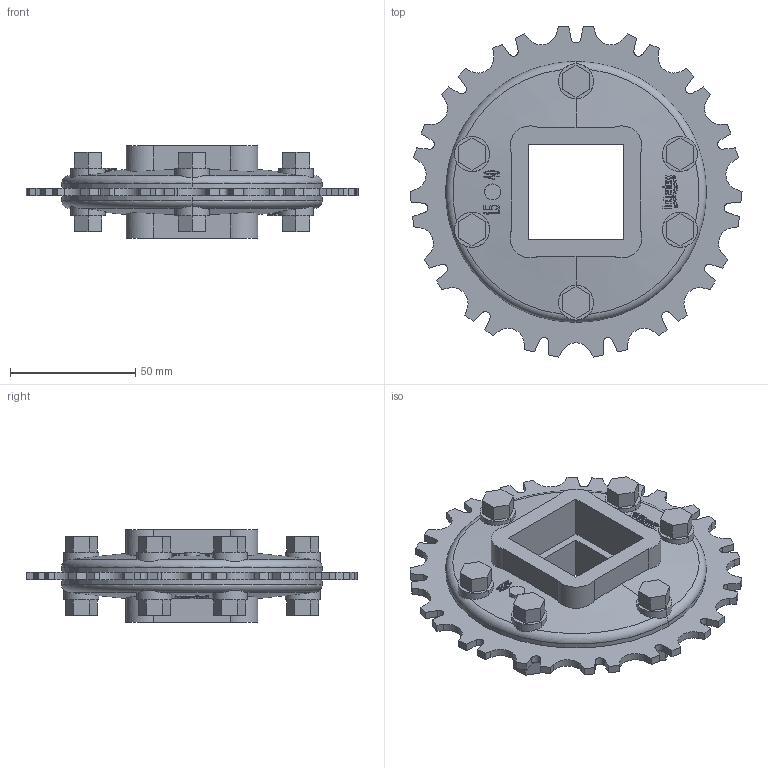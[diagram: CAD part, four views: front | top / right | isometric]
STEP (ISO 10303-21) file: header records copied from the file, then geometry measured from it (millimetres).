
FILE_DESCRIPTION((''),'2;1');
FILE_NAME('S900_SPL_METAL_51X15_40_SQ_ASM','2008-12-12T',('jmumphre'),(''),'PRO/ENGINEER BY PARAMETRIC TECHNOLOGY CORPORATION, 2008150','PRO/ENGINEER BY PARAMETRIC TECHNOLOGY CORPORATION, 2008150','');
FILE_SCHEMA(('CONFIG_CONTROL_DESIGN'));
Length unit declared in the file: inch
Products named in the file (5): S900_TP_METAL_51X254_SQ_AF0; JOINING_PLATE_5X15_40_SQ_AF4; JOINING_PLATE_5X15_40_SQ_AF5; BOLTS_N_NUTS_3-480X0-750_AF4; S900_SPL_METAL_51X15_40_SQ_ASM
Assembly tree (4 placements, depth 2):
  S900_SPL_METAL_51X15_40_SQ_ASM
    S900_TP_METAL_51X254_SQ_AF0
    JOINING_PLATE_5X15_40_SQ_AF4
    JOINING_PLATE_5X15_40_SQ_AF5
    BOLTS_N_NUTS_3-480X0-750_AF4
Bounding box: 132.63 x 131.9 x 37.08 mm (x, y, z)
Volume: 146599.6 mm3; surface area: 69235.4 mm2
Topology: 9 solids, 9 shells, 1022 faces, 2820 edges, 1876 vertices
Faces by surface type: plane 674, cylinder 294, cone 50, torus 4
Entity records: 35641 total; most frequent: CARTESIAN_POINT 11751, ORIENTED_EDGE 5640, DIRECTION 3778, EDGE_CURVE 2820, VERTEX_POINT 1876, B_SPLINE_CURVE_WITH_KNOTS 1320, VECTOR 1284, LINE 1284
